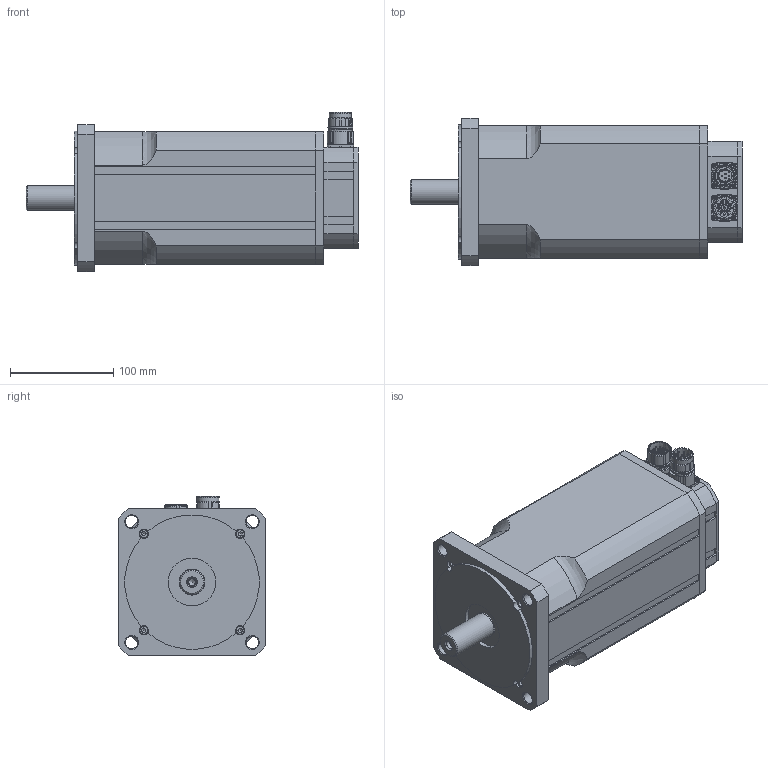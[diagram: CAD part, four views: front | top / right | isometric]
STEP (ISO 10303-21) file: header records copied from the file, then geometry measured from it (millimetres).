
FILE_DESCRIPTION(/* description */ (''),/* implementation_level */ '2;1');
FILE_NAME(/* name */ 'V:\5\N5075 00 B\3D Z\N5075 00 B Z_2400_8P_12P.stp',/* time_stamp */ '2017-06-28T10:58:07+02:00',/* author */ ('simik'),/* organization */ (''),/* preprocessor_version */ 'ST-DEVELOPER v16.13',/* originating_system */ 'Autodesk Inventor 2018',/* authorisation */ '');
FILE_SCHEMA (('AUTOMOTIVE_DESIGN { 1 0 10303 214 3 1 1 }'));
Products named in the file (5): N5075 00 B Z; N5075 00 B Z_front; N5075 00 B Z_2400; 127331; 127344
Assembly tree (4 placements, depth 2):
  N5075 00 B Z
    N5075 00 B Z_front
    N5075 00 B Z_2400
    127331
    127344
Bounding box: 321 x 142 x 153.75 mm (x, y, z)
Volume: 1529422.2 mm3; surface area: 339103.2 mm2
Topology: 4 solids, 30 shells, 1888 faces, 4574 edges, 2833 vertices
Faces by surface type: cylinder 814, plane 576, bspline 164, torus 153, cone 142, sphere 39
Full cylindrical faces by diameter (mm): 1 x16, 1.18 x12, 1.3 x4, 2 x4, 2.013 x8, 2.15 x4, 2.208 x8, 2.4 x8, 2.459 x7, 2.5 x8, 2.7 x8, 3 x4, 3.2 x9, 3.242 x5, 3.545 x4, 3.95 x4, 4 x4, 4.134 x8, 4.4 x4, 5 x16, 5.3 x8, 5.8 x1, 6.5 x4, 6.647 x1, 6.8 x1, 8 x4, 8.4 x1, 8.5 x12, 9 x8, 12 x4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
Entity records: 62612 total; most frequent: CARTESIAN_POINT 19146, DIRECTION 8925, ORIENTED_EDGE 8106, EDGE_CURVE 3981, AXIS2_PLACEMENT_3D 3801, VERTEX_POINT 2636, EDGE_LOOP 2439, CIRCLE 1927
